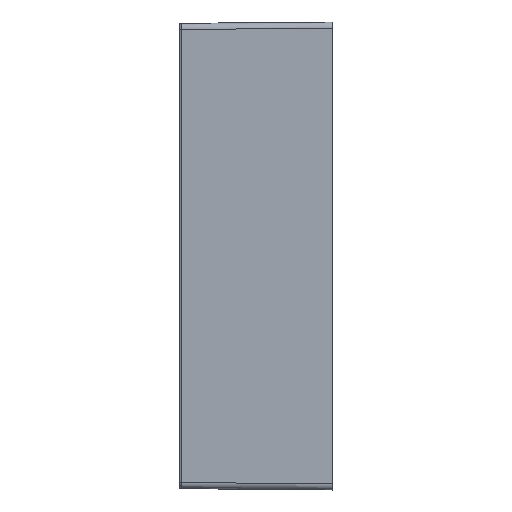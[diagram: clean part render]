
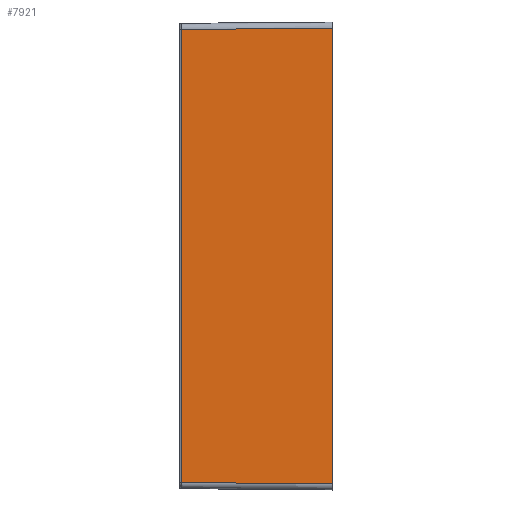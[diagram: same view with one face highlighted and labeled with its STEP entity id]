
A CAD part, left-side view. The second image highlights one B-rep face of the part: STEP entity #7921.
In plain terms, the highlighted planar face has unit normal (-1, 0.009, 0).
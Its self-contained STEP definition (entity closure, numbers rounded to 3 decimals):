
#542 = CARTESIAN_POINT ( 'NONE',  ( -224.986, 1.614, -184.986 ) ) ;
#950 = VECTOR ( 'NONE', #12452, 1000. ) ;
#1496 = VECTOR ( 'NONE', #16154, 1000. ) ;
#1532 = CARTESIAN_POINT ( 'NONE',  ( -225., 0., 0. ) ) ;
#1801 = ORIENTED_EDGE ( 'NONE', *, *, #10209, .T. ) ;
#2490 = EDGE_CURVE ( 'NONE', #16165, #10981, #3185, .T. ) ;
#3016 = CARTESIAN_POINT ( 'NONE',  ( -223.926, 123.017, -183.927 ) ) ;
#3179 = EDGE_LOOP ( 'NONE', ( #1801, #6172, #7125, #8061 ) ) ;
#3185 = LINE ( 'NONE', #17968, #14128 ) ;
#3526 = CARTESIAN_POINT ( 'NONE',  ( -223.926, 123.017, 183.927 ) ) ;
#4939 = FACE_OUTER_BOUND ( 'NONE', #3179, .T. ) ;
#5872 = LINE ( 'NONE', #13207, #1496 ) ;
#5976 = PLANE ( 'NONE',  #19292 ) ;
#6172 = ORIENTED_EDGE ( 'NONE', *, *, #2490, .T. ) ;
#7125 = ORIENTED_EDGE ( 'NONE', *, *, #16149, .T. ) ;
#7253 = DIRECTION ( 'NONE',  ( 0., 0., 1. ) ) ;
#7481 = DIRECTION ( 'NONE',  ( -1., 0.009, 0. ) ) ;
#7921 = ADVANCED_FACE ( 'NONE', ( #4939 ), #5976, .T. ) ;
#8061 = ORIENTED_EDGE ( 'NONE', *, *, #13093, .T. ) ;
#8372 = LINE ( 'NONE', #542, #950 ) ;
#10209 = EDGE_CURVE ( 'NONE', #14605, #16165, #5872, .T. ) ;
#10981 = VERTEX_POINT ( 'NONE', #3016 ) ;
#12452 = DIRECTION ( 'NONE',  ( -0.009, -1., -0.009 ) ) ;
#13093 = EDGE_CURVE ( 'NONE', #18529, #14605, #14251, .T. ) ;
#13207 = CARTESIAN_POINT ( 'NONE',  ( -224.986, 1.614, 184.986 ) ) ;
#13292 = CARTESIAN_POINT ( 'NONE',  ( -225., 0., 0. ) ) ;
#14128 = VECTOR ( 'NONE', #18001, 1000. ) ;
#14208 = CARTESIAN_POINT ( 'NONE',  ( -225., 0., -185. ) ) ;
#14251 = LINE ( 'NONE', #13292, #17728 ) ;
#14605 = VERTEX_POINT ( 'NONE', #18466 ) ;
#16149 = EDGE_CURVE ( 'NONE', #10981, #18529, #8372, .T. ) ;
#16154 = DIRECTION ( 'NONE',  ( 0.009, 1., -0.009 ) ) ;
#16165 = VERTEX_POINT ( 'NONE', #3526 ) ;
#17728 = VECTOR ( 'NONE', #7253, 1000. ) ;
#17911 = DIRECTION ( 'NONE',  ( -0.009, -1., 0. ) ) ;
#17968 = CARTESIAN_POINT ( 'NONE',  ( -223.926, 123.017, -183.909 ) ) ;
#18001 = DIRECTION ( 'NONE',  ( 0., 0., -1. ) ) ;
#18466 = CARTESIAN_POINT ( 'NONE',  ( -225., 0., 185. ) ) ;
#18529 = VERTEX_POINT ( 'NONE', #14208 ) ;
#19292 = AXIS2_PLACEMENT_3D ( 'NONE', #1532, #7481, #17911 ) ;
